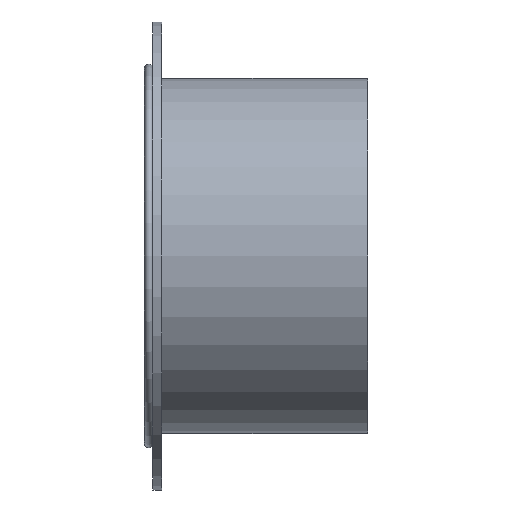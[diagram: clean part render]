
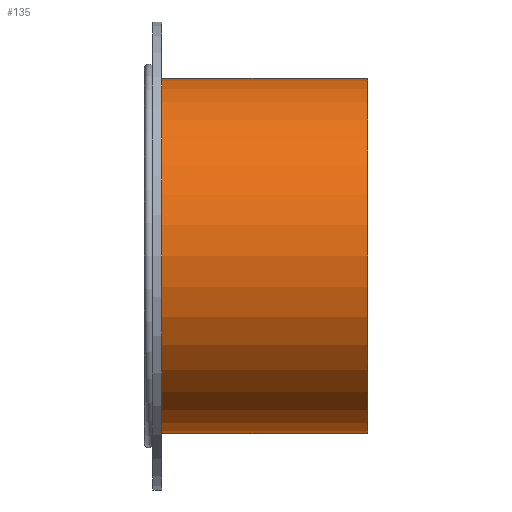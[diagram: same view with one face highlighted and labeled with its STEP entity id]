
A CAD part, left-side view. The second image highlights one B-rep face of the part: STEP entity #135.
In plain terms, the highlighted cylindrical face has radius 80.8 mm (diameter 161.6 mm), a full revolution.
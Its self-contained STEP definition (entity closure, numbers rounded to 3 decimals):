
#135=ADVANCED_FACE('',(#209,#210),#150,.T.);
#150=CYLINDRICAL_SURFACE('',#485,80.8);
#209=FACE_BOUND('',#271,.T.);
#210=FACE_BOUND('',#272,.T.);
#271=EDGE_LOOP('',(#333));
#272=EDGE_LOOP('',(#334));
#333=ORIENTED_EDGE('',*,*,#398,.F.);
#334=ORIENTED_EDGE('',*,*,#393,.T.);
#362=VERTEX_POINT('',#671);
#367=VERTEX_POINT('',#685);
#393=EDGE_CURVE('',#362,#362,#424,.T.);
#398=EDGE_CURVE('',#367,#367,#429,.T.);
#424=CIRCLE('',#474,80.8);
#429=CIRCLE('',#483,80.8);
#474=AXIS2_PLACEMENT_3D('',#670,#575,#576);
#483=AXIS2_PLACEMENT_3D('',#684,#593,#594);
#485=AXIS2_PLACEMENT_3D('',#687,#597,#598);
#575=DIRECTION('',(0.,1.,0.));
#576=DIRECTION('',(1.,0.,0.));
#593=DIRECTION('',(0.,1.,0.));
#594=DIRECTION('',(1.,0.,0.));
#597=DIRECTION('',(0.,1.,0.));
#598=DIRECTION('',(1.,0.,0.));
#670=CARTESIAN_POINT('',(0.,0.,0.));
#671=CARTESIAN_POINT('',(80.8,0.,0.));
#684=CARTESIAN_POINT('',(0.,99.2,0.));
#685=CARTESIAN_POINT('',(80.8,99.2,0.));
#687=CARTESIAN_POINT('',(0.,-192.076,0.));
